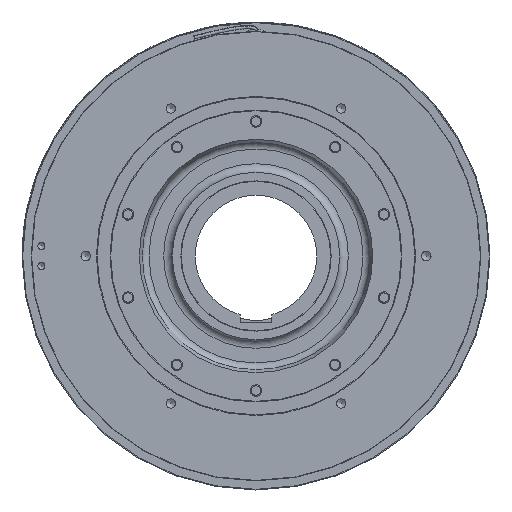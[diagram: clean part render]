
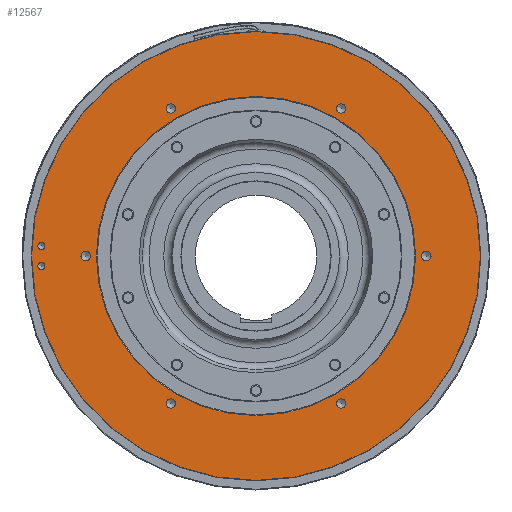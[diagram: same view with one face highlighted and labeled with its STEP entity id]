
A CAD part, left-side view. The second image highlights one B-rep face of the part: STEP entity #12567.
In plain terms, the highlighted planar face has unit normal (-1, 0, 0).
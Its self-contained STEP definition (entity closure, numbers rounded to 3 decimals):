
#880=FACE_BOUND('',#2595,.T.);
#881=FACE_BOUND('',#2596,.T.);
#882=FACE_BOUND('',#2597,.T.);
#883=FACE_BOUND('',#2598,.T.);
#884=FACE_BOUND('',#2599,.T.);
#885=FACE_BOUND('',#2600,.T.);
#886=FACE_BOUND('',#2601,.T.);
#887=FACE_BOUND('',#2602,.T.);
#888=FACE_BOUND('',#2603,.T.);
#1117=PLANE('',#14325);
#1757=FACE_OUTER_BOUND('',#2594,.T.);
#2594=EDGE_LOOP('',(#11795,#11796));
#2595=EDGE_LOOP('',(#11797,#11798));
#2596=EDGE_LOOP('',(#11799,#11800));
#2597=EDGE_LOOP('',(#11801,#11802));
#2598=EDGE_LOOP('',(#11803,#11804));
#2599=EDGE_LOOP('',(#11805,#11806));
#2600=EDGE_LOOP('',(#11807,#11808));
#2601=EDGE_LOOP('',(#11809,#11810));
#2602=EDGE_LOOP('',(#11811,#11812));
#2603=EDGE_LOOP('',(#11813));
#4908=CIRCLE('',#14262,156.8);
#4909=CIRCLE('',#14263,156.8);
#4918=CIRCLE('',#14277,2.459);
#4919=CIRCLE('',#14278,2.459);
#4922=CIRCLE('',#14283,2.459);
#4923=CIRCLE('',#14284,2.459);
#4926=CIRCLE('',#14289,3.324);
#4927=CIRCLE('',#14290,3.324);
#4930=CIRCLE('',#14295,3.324);
#4931=CIRCLE('',#14296,3.324);
#4934=CIRCLE('',#14301,3.324);
#4935=CIRCLE('',#14302,3.324);
#4938=CIRCLE('',#14307,3.324);
#4939=CIRCLE('',#14308,3.324);
#4942=CIRCLE('',#14313,3.324);
#4943=CIRCLE('',#14314,3.324);
#4946=CIRCLE('',#14319,3.324);
#4947=CIRCLE('',#14320,3.324);
#4950=CIRCLE('',#14324,111.5);
#6203=VERTEX_POINT('',#22956);
#6204=VERTEX_POINT('',#22957);
#6214=VERTEX_POINT('',#22984);
#6215=VERTEX_POINT('',#22985);
#6219=VERTEX_POINT('',#22997);
#6220=VERTEX_POINT('',#22998);
#6224=VERTEX_POINT('',#23010);
#6225=VERTEX_POINT('',#23011);
#6229=VERTEX_POINT('',#23023);
#6230=VERTEX_POINT('',#23024);
#6234=VERTEX_POINT('',#23036);
#6235=VERTEX_POINT('',#23037);
#6239=VERTEX_POINT('',#23049);
#6240=VERTEX_POINT('',#23050);
#6244=VERTEX_POINT('',#23062);
#6245=VERTEX_POINT('',#23063);
#6249=VERTEX_POINT('',#23075);
#6250=VERTEX_POINT('',#23076);
#6253=VERTEX_POINT('',#23085);
#8051=EDGE_CURVE('',#6203,#6204,#4908,.T.);
#8052=EDGE_CURVE('',#6204,#6203,#4909,.T.);
#8063=EDGE_CURVE('',#6214,#6215,#4918,.T.);
#8064=EDGE_CURVE('',#6215,#6214,#4919,.T.);
#8069=EDGE_CURVE('',#6219,#6220,#4922,.T.);
#8070=EDGE_CURVE('',#6220,#6219,#4923,.T.);
#8075=EDGE_CURVE('',#6224,#6225,#4926,.T.);
#8076=EDGE_CURVE('',#6225,#6224,#4927,.T.);
#8081=EDGE_CURVE('',#6229,#6230,#4930,.T.);
#8082=EDGE_CURVE('',#6230,#6229,#4931,.T.);
#8087=EDGE_CURVE('',#6234,#6235,#4934,.T.);
#8088=EDGE_CURVE('',#6235,#6234,#4935,.T.);
#8093=EDGE_CURVE('',#6239,#6240,#4938,.T.);
#8094=EDGE_CURVE('',#6240,#6239,#4939,.T.);
#8099=EDGE_CURVE('',#6244,#6245,#4942,.T.);
#8100=EDGE_CURVE('',#6245,#6244,#4943,.T.);
#8105=EDGE_CURVE('',#6249,#6250,#4946,.T.);
#8106=EDGE_CURVE('',#6250,#6249,#4947,.T.);
#8111=EDGE_CURVE('',#6253,#6253,#4950,.T.);
#11795=ORIENTED_EDGE('',*,*,#8051,.T.);
#11796=ORIENTED_EDGE('',*,*,#8052,.T.);
#11797=ORIENTED_EDGE('',*,*,#8063,.T.);
#11798=ORIENTED_EDGE('',*,*,#8064,.T.);
#11799=ORIENTED_EDGE('',*,*,#8069,.T.);
#11800=ORIENTED_EDGE('',*,*,#8070,.T.);
#11801=ORIENTED_EDGE('',*,*,#8075,.T.);
#11802=ORIENTED_EDGE('',*,*,#8076,.T.);
#11803=ORIENTED_EDGE('',*,*,#8081,.T.);
#11804=ORIENTED_EDGE('',*,*,#8082,.T.);
#11805=ORIENTED_EDGE('',*,*,#8087,.T.);
#11806=ORIENTED_EDGE('',*,*,#8088,.T.);
#11807=ORIENTED_EDGE('',*,*,#8093,.T.);
#11808=ORIENTED_EDGE('',*,*,#8094,.T.);
#11809=ORIENTED_EDGE('',*,*,#8099,.T.);
#11810=ORIENTED_EDGE('',*,*,#8100,.T.);
#11811=ORIENTED_EDGE('',*,*,#8105,.T.);
#11812=ORIENTED_EDGE('',*,*,#8106,.T.);
#11813=ORIENTED_EDGE('',*,*,#8111,.F.);
#12567=ADVANCED_FACE('',(#1757,#880,#881,#882,#883,#884,#885,#886,#887,
#888),#1117,.T.);
#14262=AXIS2_PLACEMENT_3D('',#22958,#18275,#18276);
#14263=AXIS2_PLACEMENT_3D('',#22959,#18277,#18278);
#14277=AXIS2_PLACEMENT_3D('',#22986,#18307,#18308);
#14278=AXIS2_PLACEMENT_3D('',#22987,#18309,#18310);
#14283=AXIS2_PLACEMENT_3D('',#22999,#18321,#18322);
#14284=AXIS2_PLACEMENT_3D('',#23000,#18323,#18324);
#14289=AXIS2_PLACEMENT_3D('',#23012,#18335,#18336);
#14290=AXIS2_PLACEMENT_3D('',#23013,#18337,#18338);
#14295=AXIS2_PLACEMENT_3D('',#23025,#18349,#18350);
#14296=AXIS2_PLACEMENT_3D('',#23026,#18351,#18352);
#14301=AXIS2_PLACEMENT_3D('',#23038,#18363,#18364);
#14302=AXIS2_PLACEMENT_3D('',#23039,#18365,#18366);
#14307=AXIS2_PLACEMENT_3D('',#23051,#18377,#18378);
#14308=AXIS2_PLACEMENT_3D('',#23052,#18379,#18380);
#14313=AXIS2_PLACEMENT_3D('',#23064,#18391,#18392);
#14314=AXIS2_PLACEMENT_3D('',#23065,#18393,#18394);
#14319=AXIS2_PLACEMENT_3D('',#23077,#18405,#18406);
#14320=AXIS2_PLACEMENT_3D('',#23078,#18407,#18408);
#14324=AXIS2_PLACEMENT_3D('',#23087,#18417,#18418);
#14325=AXIS2_PLACEMENT_3D('',#23088,#18419,#18420);
#18275=DIRECTION('center_axis',(-1.,0.,0.));
#18276=DIRECTION('ref_axis',(0.,1.,0.));
#18277=DIRECTION('center_axis',(-1.,0.,0.));
#18278=DIRECTION('ref_axis',(0.,1.,0.));
#18307=DIRECTION('center_axis',(1.,0.,0.));
#18308=DIRECTION('ref_axis',(0.,0.,
1.));
#18309=DIRECTION('center_axis',(1.,0.,0.));
#18310=DIRECTION('ref_axis',(0.,0.,
1.));
#18321=DIRECTION('center_axis',(1.,0.,0.));
#18322=DIRECTION('ref_axis',(0.,0.,
1.));
#18323=DIRECTION('center_axis',(1.,0.,0.));
#18324=DIRECTION('ref_axis',(0.,0.,
1.));
#18335=DIRECTION('center_axis',(1.,0.,0.));
#18336=DIRECTION('ref_axis',(0.,0.,
1.));
#18337=DIRECTION('center_axis',(1.,0.,0.));
#18338=DIRECTION('ref_axis',(0.,0.,
1.));
#18349=DIRECTION('center_axis',(1.,0.,0.));
#18350=DIRECTION('ref_axis',(0.,0.,
1.));
#18351=DIRECTION('center_axis',(1.,0.,0.));
#18352=DIRECTION('ref_axis',(0.,0.,
1.));
#18363=DIRECTION('center_axis',(1.,0.,0.));
#18364=DIRECTION('ref_axis',(0.,0.,
1.));
#18365=DIRECTION('center_axis',(1.,0.,0.));
#18366=DIRECTION('ref_axis',(0.,0.,
1.));
#18377=DIRECTION('center_axis',(1.,0.,0.));
#18378=DIRECTION('ref_axis',(0.,0.,
1.));
#18379=DIRECTION('center_axis',(1.,0.,0.));
#18380=DIRECTION('ref_axis',(0.,0.,
1.));
#18391=DIRECTION('center_axis',(1.,0.,0.));
#18392=DIRECTION('ref_axis',(0.,0.,
1.));
#18393=DIRECTION('center_axis',(1.,0.,0.));
#18394=DIRECTION('ref_axis',(0.,0.,
1.));
#18405=DIRECTION('center_axis',(1.,0.,0.));
#18406=DIRECTION('ref_axis',(0.,0.,
1.));
#18407=DIRECTION('center_axis',(1.,0.,0.));
#18408=DIRECTION('ref_axis',(0.,0.,
1.));
#18417=DIRECTION('center_axis',(-1.,0.,0.));
#18418=DIRECTION('ref_axis',(0.,-1.,0.));
#18419=DIRECTION('center_axis',(-1.,0.,0.));
#18420=DIRECTION('ref_axis',(0.,0.,
1.));
#22956=CARTESIAN_POINT('',(-21.,156.8,0.));
#22957=CARTESIAN_POINT('',(-21.,-156.8,0.));
#22958=CARTESIAN_POINT('Origin',(-21.,0.,0.));
#22959=CARTESIAN_POINT('Origin',(-21.,0.,0.));
#22984=CARTESIAN_POINT('',(-21.,150.,9.459));
#22985=CARTESIAN_POINT('',(-21.,150.,4.542));
#22986=CARTESIAN_POINT('Origin',(-21.,150.,7.));
#22987=CARTESIAN_POINT('Origin',(-21.,150.,7.));
#22997=CARTESIAN_POINT('',(-21.,150.,-4.542));
#22998=CARTESIAN_POINT('',(-21.,150.,-9.459));
#22999=CARTESIAN_POINT('Origin',(-21.,150.,-7.));
#23000=CARTESIAN_POINT('Origin',(-21.,150.,-7.));
#23010=CARTESIAN_POINT('',(-21.,59.5,106.381));
#23011=CARTESIAN_POINT('',(-21.,59.5,99.734));
#23012=CARTESIAN_POINT('Origin',(-21.,59.5,103.057));
#23013=CARTESIAN_POINT('Origin',(-21.,59.5,103.057));
#23023=CARTESIAN_POINT('',(-21.,-59.5,106.381));
#23024=CARTESIAN_POINT('',(-21.,-59.5,99.734));
#23025=CARTESIAN_POINT('Origin',(-21.,-59.5,103.057));
#23026=CARTESIAN_POINT('Origin',(-21.,-59.5,103.057));
#23036=CARTESIAN_POINT('',(-21.,-119.,3.323));
#23037=CARTESIAN_POINT('',(-21.,-119.,-3.324));
#23038=CARTESIAN_POINT('Origin',(-21.,-119.,0.));
#23039=CARTESIAN_POINT('Origin',(-21.,-119.,0.));
#23049=CARTESIAN_POINT('',(-21.,-59.5,-99.734));
#23050=CARTESIAN_POINT('',(-21.,-59.5,-106.381));
#23051=CARTESIAN_POINT('Origin',(-21.,-59.5,-103.057));
#23052=CARTESIAN_POINT('Origin',(-21.,-59.5,-103.057));
#23062=CARTESIAN_POINT('',(-21.,59.5,-99.734));
#23063=CARTESIAN_POINT('',(-21.,59.5,-106.381));
#23064=CARTESIAN_POINT('Origin',(-21.,59.5,-103.057));
#23065=CARTESIAN_POINT('Origin',(-21.,59.5,-103.057));
#23075=CARTESIAN_POINT('',(-21.,119.,3.324));
#23076=CARTESIAN_POINT('',(-21.,119.,-3.324));
#23077=CARTESIAN_POINT('Origin',(-21.,119.,0.));
#23078=CARTESIAN_POINT('Origin',(-21.,119.,0.));
#23085=CARTESIAN_POINT('',(-21.,111.5,0.));
#23087=CARTESIAN_POINT('Origin',(-21.,0.,0.));
#23088=CARTESIAN_POINT('Origin',(-21.,133.9,0.));
